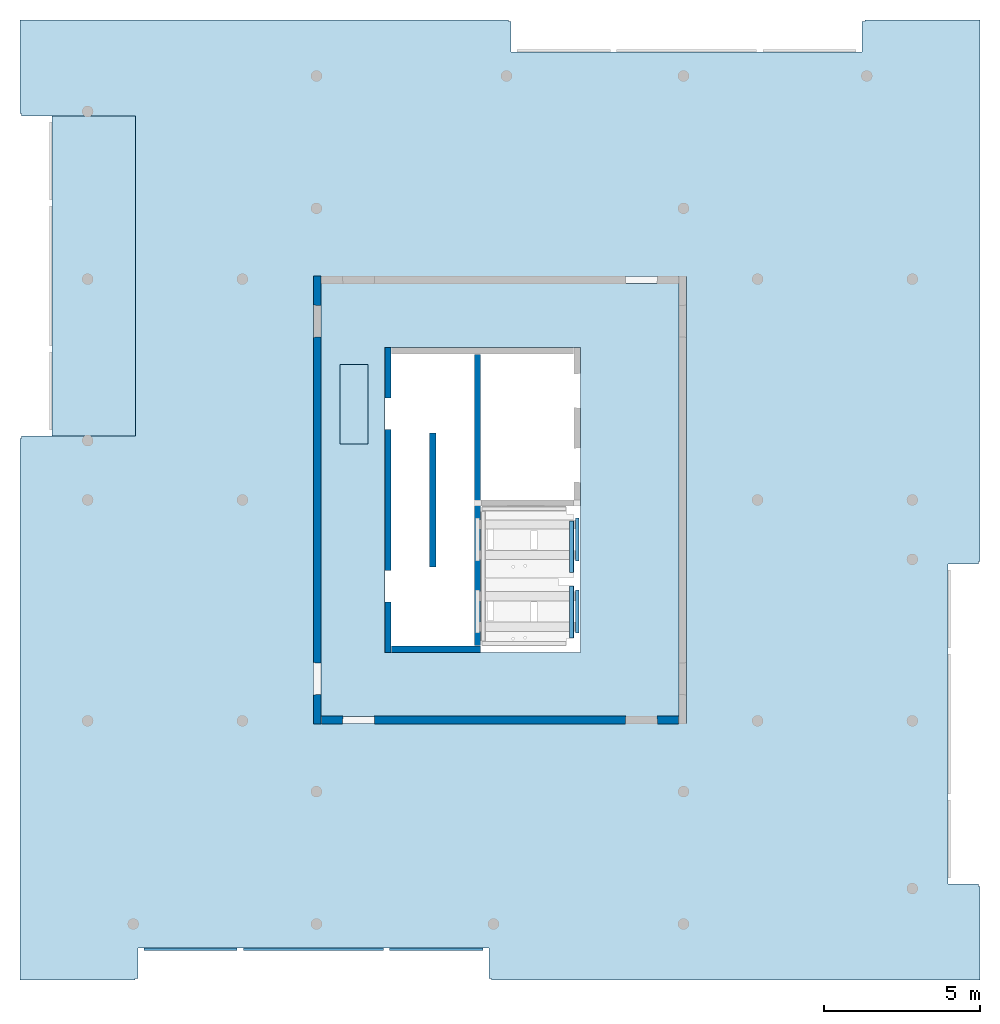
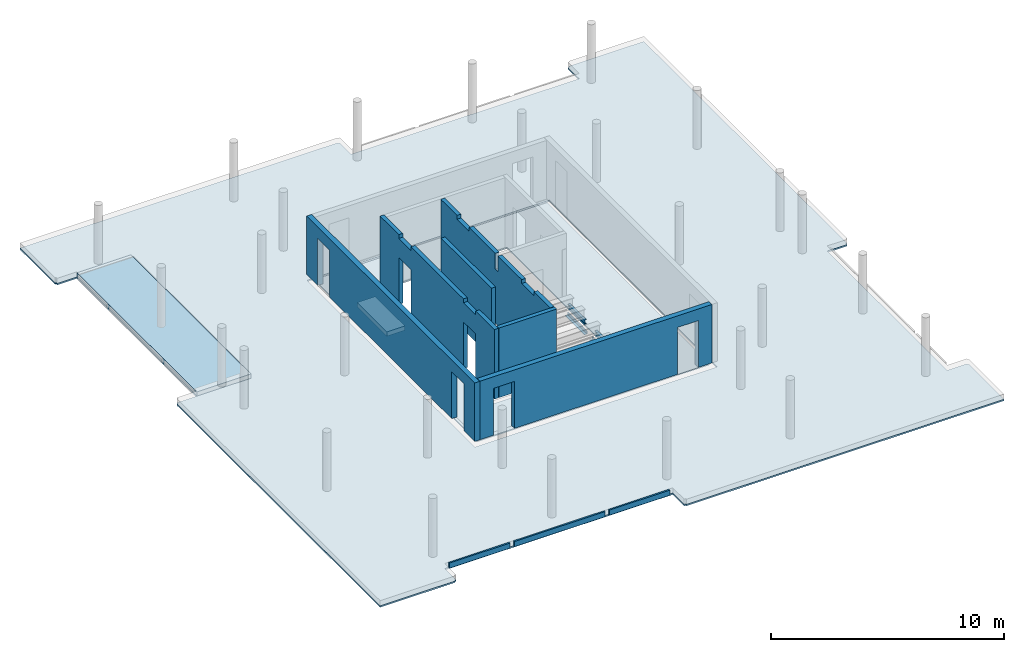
# One storey, part 2 of 4: 9 walls, 4 beams, 4 slabs, 32 openings.
"""IFC2X3 building model written with IfcOpenShell, lengths in millimetres."""

from ifc_helpers import new_model, entity, si_unit, converted_unit, derived_unit, direction, frame, frame_2d, origin, origin_2d_with_axis, place, context, subcontext, project, spatial, polyline, circle_curve, parameter, trimmed, segment, composite_curve, rectangle, circle, i_section, outline, extrude, faceted_brep, material, layer, layer_set, layer_usage, type_object, element, save


model = new_model("IFC2X3")

# Units and contexts
model_context = context("Model", 3, precision=0.01, world=origin(), true_north=direction((6.12303176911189e-17, 1.0)))
body_context = subcontext(model_context, "Body", "Model", "MODEL_VIEW")
ifc_project = project(units=[si_unit("LENGTHUNIT", "METRE", prefix="MILLI"), si_unit("AREAUNIT", "SQUARE_METRE"), si_unit("VOLUMEUNIT", "CUBIC_METRE"), converted_unit("PLANEANGLEUNIT", "DEGREE", entity("IfcRatioMeasure", 0.0174532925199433), si_unit("PLANEANGLEUNIT", "RADIAN"), dimensions=[0, 0, 0, 0, 0, 0, 0]), si_unit("MASSUNIT", "GRAM", prefix="KILO"), derived_unit("MASSDENSITYUNIT", [(si_unit("MASSUNIT", "GRAM", prefix="KILO"), 1), (si_unit("LENGTHUNIT", "METRE"), -3)]), si_unit("TIMEUNIT", "SECOND"), si_unit("FREQUENCYUNIT", "HERTZ"), si_unit("THERMODYNAMICTEMPERATUREUNIT", "DEGREE_CELSIUS"), derived_unit("THERMALTRANSMITTANCEUNIT", [(si_unit("MASSUNIT", "GRAM", prefix="KILO"), 1), (si_unit("THERMODYNAMICTEMPERATUREUNIT", "KELVIN"), -1), (si_unit("TIMEUNIT", "SECOND"), -3)]), derived_unit("VOLUMETRICFLOWRATEUNIT", [(si_unit("LENGTHUNIT", "METRE"), 3), (si_unit("TIMEUNIT", "SECOND"), -1)]), si_unit("ELECTRICCURRENTUNIT", "AMPERE"), si_unit("ELECTRICVOLTAGEUNIT", "VOLT"), si_unit("POWERUNIT", "WATT"), si_unit("FORCEUNIT", "NEWTON", prefix="KILO"), si_unit("ILLUMINANCEUNIT", "LUX"), si_unit("LUMINOUSFLUXUNIT", "LUMEN"), si_unit("LUMINOUSINTENSITYUNIT", "CANDELA"), derived_unit("USERDEFINED", [(si_unit("MASSUNIT", "GRAM", prefix="KILO"), -1), (si_unit("LENGTHUNIT", "METRE"), -2), (si_unit("TIMEUNIT", "SECOND"), 3), (si_unit("LUMINOUSFLUXUNIT", "LUMEN"), 1)]), derived_unit("LINEARVELOCITYUNIT", [(si_unit("LENGTHUNIT", "METRE"), 1), (si_unit("TIMEUNIT", "SECOND"), -1)]), si_unit("PRESSUREUNIT", "PASCAL"), derived_unit("USERDEFINED", [(si_unit("LENGTHUNIT", "METRE"), -2), (si_unit("MASSUNIT", "GRAM", prefix="KILO"), 1), (si_unit("TIMEUNIT", "SECOND"), -2)])], contexts=[model_context])

# Site, building, storey
site_placement = place(None, origin())
site = spatial("IfcSite", under=ifc_project, at=site_placement, Name="Default", CompositionType="ELEMENT")
building_placement = place(site_placement, origin())
building = spatial("IfcBuilding", under=site, at=building_placement, Name="niet gebruiken", CompositionType="ELEMENT")
storey_placement = place(building_placement, frame((0.0, 0.0, 175180.0)))
storey = spatial("IfcBuildingStorey", under=building, at=storey_placement, Name="56 zesenvijftigste verdieping", CompositionType="ELEMENT", Elevation=175180.0)

# Beams
ifc_material_1 = material(Name="NLRS_h2_staal")
beam_type_1 = type_object("IfcBeamType", Name="NLRS_28.11_SF_WPB_stalen ligger IPE_gen:ligger IPE 240", PredefinedType="BEAM")
for number, where, z_axis, x_axis, name in (
    (1, (144230.0, 13223.4999999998, 170.0), (0.0, 0.0, 1.0), (0.0, 1.0, 0.0), "NLRS_28.11_SF_WPB_stalen ligger IPE_gen:ligger IPE 240"),
    (2, (144230.0, 15533.4999999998, 170.0), (0.0, 0.0, 1.0), (0.0, 1.0, 0.0), "NLRS_28.11_SF_WPB_stalen ligger IPE_gen:ligger IPE 240"),
):
    element("IfcBeam", number, at=place(storey_placement, frame(where, z_axis=z_axis, x_axis=x_axis)), inside=storey, type_object=beam_type_1, material=ifc_material_1, Name=name, ObjectType="NLRS_28.11_SF_WPB_stalen ligger IPE_gen:ligger IPE 240", context=body_context, shape_type="SweptSolid", body=[
        extrude(i_section(OverallWidth=120.000000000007, OverallDepth=240.000000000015, WebThickness=6.20000000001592, FlangeThickness=9.8000000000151, FilletRadius=15.0000000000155, at=frame_2d((3.46531692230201e-11, 3.46531692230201e-11), x_axis=(0.0, 1.0))), frame((0.0, 0.0, -120.0), z_axis=(1.0, 0.0, 0.0), x_axis=(0.0, 0.0, -1.0)), (0.0, 0.0, 1.0), 1380.0),
    ])
beam_type_2 = type_object("IfcBeamType", Name="NLRS_28.11_SF_WPB_stalen ligger hoekprofiel gelijkzijdig_gen:ligger gelijzijdig hoekprofiel LEQU_150x150x12", PredefinedType="BEAM")
beam_1_placement = place(storey_placement, frame((144130.0, 13065.0, -320.0), z_axis=(0.0, 0.0, 1.0), x_axis=(0.0, 1.0, 0.0)))
element("IfcBeam", 3, at=beam_1_placement, inside=storey, type_object=beam_type_2, material=ifc_material_1, Name="NLRS_28.11_SF_WPB_stalen ligger hoekprofiel gelijkzijdig_gen:ligger gelijzijdig hoekprofiel LEQU_150x150x12", ObjectType="NLRS_28.11_SF_WPB_stalen ligger hoekprofiel gelijkzijdig_gen:ligger gelijzijdig hoekprofiel LEQU_150x150x12", context=body_context, shape_type="SweptSolid", body=[
    extrude(outline(composite_curve([segment(polyline([(-94.6666666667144, -56.6666666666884), (55.3333333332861, -56.6666666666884)]), True, "CONTINUOUS"), segment(polyline([(55.3333333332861, -56.6666666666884), (55.3333333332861, 93.3333333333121)]), True, "CONTINUOUS"), segment(polyline([(55.3333333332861, 93.3333333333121), (51.333333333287, 93.3333333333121)]), True, "CONTINUOUS"), segment(trimmed(circle_curve(frame_2d((51.333333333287, 85.3333333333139), x_axis=(0.0, 1.0)), 7.99999999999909), [parameter(0.0)], [parameter(90.0000000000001)], True, "PARAMETER"), True, "CONTINUOUS"), segment(polyline([(43.3333333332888, 85.3333333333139), (43.3333333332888, -25.6666666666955)]), True, "CONTINUOUS"), segment(trimmed(circle_curve(frame_2d((27.3333333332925, -25.6666666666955), x_axis=(1.0, 0.0)), 15.9999999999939), [parameter(270.0)], [parameter(0.0)], True, "PARAMETER"), False, "CONTINUOUS"), segment(polyline([(27.3333333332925, -41.6666666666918), (-86.6666666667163, -41.6666666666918)]), True, "CONTINUOUS"), segment(trimmed(circle_curve(frame_2d((-86.6666666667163, -49.66666666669), x_axis=(0.0, 1.0)), 7.9999999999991), [parameter(0.0)], [parameter(90.0000000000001)], True, "PARAMETER"), True, "CONTINUOUS"), segment(polyline([(-94.6666666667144, -49.66666666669), (-94.6666666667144, -56.6666666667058)]), True, "CONTINUOUS")], self_intersect=False)), frame((0.0, 56.6666666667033, 55.3333333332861), z_axis=(1.0, 0.0, 0.0), x_axis=(0.0, 0.0, -1.0)), (0.0, 0.0, 1.0), 1665.0),
])
beam_2_placement = place(storey_placement, frame((144130.0, 15165.0, -320.0), z_axis=(0.0, 0.0, 1.0), x_axis=(0.0, 1.0, 0.0)))
element("IfcBeam", 4, at=beam_2_placement, inside=storey, type_object=beam_type_2, material=ifc_material_1, Name="NLRS_28.11_SF_WPB_stalen ligger hoekprofiel gelijkzijdig_gen:ligger gelijzijdig hoekprofiel LEQU_150x150x12", ObjectType="NLRS_28.11_SF_WPB_stalen ligger hoekprofiel gelijkzijdig_gen:ligger gelijzijdig hoekprofiel LEQU_150x150x12", context=body_context, shape_type="SweptSolid", body=[
    extrude(outline(composite_curve([segment(polyline([(-94.6666666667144, -56.6666666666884), (55.3333333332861, -56.6666666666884)]), True, "CONTINUOUS"), segment(polyline([(55.3333333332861, -56.6666666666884), (55.3333333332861, 93.3333333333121)]), True, "CONTINUOUS"), segment(polyline([(55.3333333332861, 93.3333333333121), (51.333333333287, 93.3333333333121)]), True, "CONTINUOUS"), segment(trimmed(circle_curve(frame_2d((51.333333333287, 85.3333333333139), x_axis=(0.0, 1.0)), 7.99999999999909), [parameter(0.0)], [parameter(90.0000000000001)], True, "PARAMETER"), True, "CONTINUOUS"), segment(polyline([(43.3333333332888, 85.3333333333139), (43.3333333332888, -25.6666666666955)]), True, "CONTINUOUS"), segment(trimmed(circle_curve(frame_2d((27.3333333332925, -25.6666666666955), x_axis=(1.0, 0.0)), 15.9999999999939), [parameter(270.0)], [parameter(0.0)], True, "PARAMETER"), False, "CONTINUOUS"), segment(polyline([(27.3333333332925, -41.6666666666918), (-86.6666666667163, -41.6666666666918)]), True, "CONTINUOUS"), segment(trimmed(circle_curve(frame_2d((-86.6666666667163, -49.66666666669), x_axis=(0.0, 1.0)), 7.9999999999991), [parameter(0.0)], [parameter(90.0000000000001)], True, "PARAMETER"), True, "CONTINUOUS"), segment(polyline([(-94.6666666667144, -49.66666666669), (-94.6666666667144, -56.6666666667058)]), True, "CONTINUOUS")], self_intersect=False)), frame((0.0, 56.6666666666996, 55.3333333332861), z_axis=(1.0, 0.0, 0.0), x_axis=(0.0, 0.0, -1.0)), (0.0, 0.0, 1.0), 1665.0),
])

# Slab
ifc_material_2 = material(Name="NLRS_f2_beton ihwg")
ifc_layer_1 = layer(ifc_material_2, 300.0)
ifc_layer_set_1 = layer_set([ifc_layer_1], Name="Floor:NLRS_23.21_FL_vloer d=300_gen")
ifc_layer_usage_1 = layer_usage(ifc_layer_set_1, "AXIS3", "POSITIVE", 0.0)
slab_1_placement = place(storey_placement, origin())
element("IfcSlab", 5, at=slab_1_placement, inside=storey, material=ifc_layer_usage_1, Name="Floor:NLRS_23.21_FL_vloer d=300_gen", ObjectType="Floor:NLRS_23.21_FL_vloer d=300_gen", PredefinedType="FLOOR", context=body_context, shape_type="SweptSolid", body=[
    extrude(rectangle(XDim=10280.0000000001, YDim=2685.00000000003, at=origin_2d_with_axis()), frame((128687.5, 24700.0, -140.0), z_axis=(0.0, 0.0, -1.0), x_axis=(0.0, 1.0, 0.0)), (0.0, 0.0, 1.0), 219.999999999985),
])

# Slab, opening
ifc_material_3 = material(Name="NLRS_f2_beton prefab")
ifc_layer_2 = layer(ifc_material_3, 80.0)
ifc_layer_set_2 = layer_set([ifc_layer_2], Name="Floor:NLRS_23.21_FL_breedplaat d=80_gen")
ifc_layer_usage_2 = layer_usage(ifc_layer_set_2, "AXIS3", "POSITIVE", 0.0)
slab_2_placement = place(storey_placement, frame((126320.0, 2070.0, -440.0)))
slab_2 = element("IfcSlab", 6, at=slab_2_placement, inside=storey, material=ifc_layer_usage_2, Name="Floor:NLRS_23.21_FL_breedplaat d=80_gen", ObjectType="Floor:NLRS_23.21_FL_breedplaat d=80_gen", PredefinedType="FLOOR", context=body_context, shape_type="SweptSolid", body=[
    extrude(outline(polyline([(14405.0, 2060.0), (14405.0, 12340.0), (15380.0, 12340.0), (15380.0, 12426.0), (15430.0, 12426.0), (15430.0, 15430.0), (-274.0, 15430.0), (-274.0, 15380.0), (-360.0, 15380.0), (-360.0, 14405.0), (-11640.0, 14405.0), (-11640.0, 15380.0), (-11726.0, 15380.0), (-11726.0, 15430.0), (-15430.0, 15430.0), (-15430.0, -1974.0), (-15380.0, -1974.0), (-15380.0, -2060.0), (-14405.0, -2060.0), (-14405.0, -12340.0), (-15380.0, -12340.0), (-15380.0, -12426.0), (-15430.0, -12426.0), (-15430.0, -15430.0), (274.0, -15430.0), (274.0, -15380.0), (360.0, -15380.0), (360.0, -14405.0), (11640.0, -14405.0), (11640.0, -15380.0), (11726.0, -15380.0), (11726.0, -15430.0), (15430.0, -15430.0), (15430.0, 1974.0), (15380.0, 1974.0), (15380.0, 2060.0), (14405.0, 2060.0)])), frame((15430.0, 15430.0, 80.0), z_axis=(0.0, 0.0, -1.0), x_axis=(-1.0, 0.0, 0.0)), (0.0, 0.0, 1.0), 80.0000000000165),
])
opening_1_placement = place(slab_2_placement, frame((15430.0, 15430.0, 80.0)))
element("IfcOpeningElement", 7, at=opening_1_placement, cuts=slab_2, Name="Floor:NLRS_23.21_FL_breedplaat d=80_gen:2", ObjectType="Opening", context=body_context, shape_type="SweptSolid", body=[
    extrude(rectangle(XDim=14379.9999999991, YDim=11980.0000000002, at=origin_2d_with_axis()), frame((0.0, 0.0, 0.0), z_axis=(0.0, 0.0, 1.0), x_axis=(0.0, -1.0, 0.0)), (0.0, 0.0, -1.0), 80.0000000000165),
])

# Slab, openings
ifc_layer_3 = layer(ifc_material_3, 60.0)
ifc_layer_set_3 = layer_set([ifc_layer_3], Name="Floor:NLRS_23.21_FL_breedplaat d=60_gen")
ifc_layer_usage_3 = layer_usage(ifc_layer_set_3, "AXIS3", "POSITIVE", 0.0)
slab_3_placement = place(storey_placement, frame((135990.0, 10540.0, -320.0)))
slab_3 = element("IfcSlab", 8, at=slab_3_placement, inside=storey, material=ifc_layer_usage_3, Name="Floor:NLRS_23.21_FL_breedplaat d=60_gen", ObjectType="Floor:NLRS_23.21_FL_breedplaat d=60_gen", PredefinedType="FLOOR", context=body_context, shape_type="SweptSolid", body=[
    extrude(rectangle(XDim=13919.9999999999, YDim=11520.0, at=frame_2d((0.0, 0.0), x_axis=(0.0, -1.0))), frame((5760.0, 6960.0, 60.0), z_axis=(0.0, 0.0, -1.0), x_axis=(-1.0, 0.0, 0.0)), (0.0, 0.0, 1.0), 59.9999999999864),
])
opening_2_placement = place(slab_3_placement, origin())
element("IfcOpeningElement", 9, at=opening_2_placement, cuts=slab_3, ObjectType="Opening", context=body_context, shape_type="SweptSolid", body=[
    extrude(rectangle(XDim=249.999999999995, YDim=250.000000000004, at=origin_2d_with_axis()), frame((8015.0, 6635.0, 0.0), z_axis=(0.0, 0.0, 1.0), x_axis=(-1.0, 0.0, 0.0)), (0.0, 0.0, 1.0), 230.000000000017),
])
opening_3_placement = place(slab_3_placement, origin())
element("IfcOpeningElement", 10, at=opening_3_placement, cuts=slab_3, ObjectType="Opening", context=body_context, shape_type="SweptSolid", body=[
    extrude(rectangle(XDim=250.000000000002, YDim=500.000000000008, at=origin_2d_with_axis()), frame((7890.0, 4330.0, 0.0), z_axis=(0.0, 0.0, 1.0), x_axis=(0.0, -1.0, 0.0)), (0.0, 0.0, 1.0), 230.000000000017),
])
opening_4_placement = place(slab_3_placement, origin())
element("IfcOpeningElement", 11, at=opening_4_placement, cuts=slab_3, ObjectType="Opening", context=body_context, shape_type="SweptSolid", body=[
    extrude(rectangle(XDim=200.000000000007, YDim=620.000000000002, at=origin_2d_with_axis()), frame((6857.0, 5675.0, 0.0), z_axis=(0.0, 0.0, 1.0), x_axis=(-1.0, 0.0, 0.0)), (0.0, 0.0, 1.0), 230.000000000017),
])
opening_5_placement = place(slab_3_placement, origin())
element("IfcOpeningElement", 12, at=opening_5_placement, cuts=slab_3, ObjectType="Opening", context=body_context, shape_type="SweptSolid", body=[
    extrude(circle(Radius=40.0, at=origin_2d_with_axis()), frame((6567.0, 4845.0, 0.0), z_axis=(0.0, 0.0, 1.0), x_axis=(0.0, 1.0, 0.0)), (0.0, 0.0, 1.0), 230.000000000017),
])
opening_6_placement = place(slab_3_placement, origin())
element("IfcOpeningElement", 13, at=opening_6_placement, cuts=slab_3, ObjectType="Opening", context=body_context, shape_type="SweptSolid", body=[
    extrude(circle(Radius=40.0, at=origin_2d_with_axis()), frame((6183.17061081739, 4815.0, 0.0), z_axis=(0.0, 0.0, 1.0), x_axis=(0.0, 1.0, 0.0)), (0.0, 0.0, 1.0), 230.000000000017),
])
opening_7_placement = place(slab_3_placement, origin())
element("IfcOpeningElement", 14, at=opening_7_placement, cuts=slab_3, ObjectType="Opening", context=body_context, shape_type="SweptSolid", body=[
    extrude(rectangle(XDim=200.000000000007, YDim=620.000000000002, at=origin_2d_with_axis()), frame((6857.0, 3365.0, 0.0), z_axis=(0.0, 0.0, 1.0), x_axis=(-1.0, 0.0, 0.0)), (0.0, 0.0, 1.0), 230.000000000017),
])
opening_8_placement = place(slab_3_placement, origin())
element("IfcOpeningElement", 15, at=opening_8_placement, cuts=slab_3, ObjectType="Opening", context=body_context, shape_type="SweptSolid", body=[
    extrude(rectangle(XDim=200.000000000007, YDim=620.000000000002, at=origin_2d_with_axis()), frame((5459.0, 3390.0, 0.0), z_axis=(0.0, 0.0, 1.0), x_axis=(-1.0, 0.0, 0.0)), (0.0, 0.0, 1.0), 230.000000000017),
])
opening_9_placement = place(slab_3_placement, origin())
element("IfcOpeningElement", 16, at=opening_9_placement, cuts=slab_3, ObjectType="Opening", context=body_context, shape_type="SweptSolid", body=[
    extrude(circle(Radius=40.0, at=origin_2d_with_axis()), frame((6567.0, 2535.0, 0.0), z_axis=(0.0, 0.0, 1.0), x_axis=(0.0, 1.0, 0.0)), (0.0, 0.0, 1.0), 230.000000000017),
])
opening_10_placement = place(slab_3_placement, origin())
element("IfcOpeningElement", 17, at=opening_10_placement, cuts=slab_3, ObjectType="Opening", context=body_context, shape_type="SweptSolid", body=[
    extrude(circle(Radius=40.0, at=origin_2d_with_axis()), frame((6183.17061081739, 2505.0, 0.0), z_axis=(0.0, 0.0, 1.0), x_axis=(0.0, 1.0, 0.0)), (0.0, 0.0, 1.0), 230.000000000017),
])
opening_11_placement = place(slab_3_placement, origin())
element("IfcOpeningElement", 18, at=opening_11_placement, cuts=slab_3, ObjectType="Opening", context=body_context, shape_type="SweptSolid", body=[
    extrude(rectangle(XDim=249.999999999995, YDim=250.000000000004, at=origin_2d_with_axis()), frame((8015.0, 2385.0, 0.0), z_axis=(0.0, 0.0, 1.0), x_axis=(-1.0, 0.0, 0.0)), (0.0, 0.0, 1.0), 230.000000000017),
])
opening_12_placement = place(slab_3_placement, origin())
element("IfcOpeningElement", 19, at=opening_12_placement, cuts=slab_3, ObjectType="Opening", context=body_context, shape_type="SweptSolid", body=[
    extrude(rectangle(XDim=200.000000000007, YDim=620.000000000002, at=origin_2d_with_axis()), frame((5459.0, 5700.0, 0.0), z_axis=(0.0, 0.0, 1.0), x_axis=(-1.0, 0.0, 0.0)), (0.0, 0.0, 1.0), 230.000000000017),
])
opening_13_placement = place(slab_3_placement, frame((5200.0, 6960.0, 60.0)))
element("IfcOpeningElement", 20, at=opening_13_placement, cuts=slab_3, Name="Floor:NLRS_23.21_FL_breedplaat d=60_gen:2", ObjectType="Opening", context=body_context, shape_type="SweptSolid", body=[
    extrude(rectangle(XDim=9820.0, YDim=6299.99999999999, at=origin_2d_with_axis()), frame((0.0, 0.0, 0.0), z_axis=(0.0, 0.0, -1.0), x_axis=(0.0, -1.0, 0.0)), (0.0, 0.0, 1.0), 59.9999999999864),
])
opening_14_placement = place(slab_3_placement, frame((1060.0, 10040.0, 60.0)))
element("IfcOpeningElement", 21, at=opening_14_placement, cuts=slab_3, Name="Floor:NLRS_23.21_FL_breedplaat d=60_gen:3", ObjectType="Opening", context=body_context, shape_type="SweptSolid", body=[
    extrude(rectangle(XDim=900.000000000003, YDim=2550.0, at=origin_2d_with_axis()), frame((0.0, 0.0, 0.0), z_axis=(0.0, 0.0, -1.0), x_axis=(-1.0, 0.0, 0.0)), (0.0, 0.0, 1.0), 59.9999999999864),
])

# Slab
ifc_layer_4 = layer(ifc_material_2, 230.0)
ifc_layer_set_4 = layer_set([ifc_layer_4], Name="Floor:NLRS_23.21_FL_vloer=230 later gestort_gen")
ifc_layer_usage_4 = layer_usage(ifc_layer_set_4, "AXIS3", "POSITIVE", 0.0)
slab_4_placement = place(storey_placement, origin())
element("IfcSlab", 22, at=slab_4_placement, inside=storey, material=ifc_layer_usage_4, Name="Floor:NLRS_23.21_FL_vloer=230 later gestort_gen", ObjectType="Floor:NLRS_23.21_FL_vloer=230 later gestort_gen", PredefinedType="FLOOR", context=body_context, shape_type="SweptSolid", body=[
    extrude(rectangle(XDim=2550.0, YDim=900.000000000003, at=frame_2d((1.13686837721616e-12, 0.0), x_axis=(1.0, 0.0))), frame((137050.0, 20580.0, -90.0), z_axis=(0.0, 0.0, -1.0), x_axis=(0.0, 1.0, 0.0)), (0.0, 0.0, 1.0), 230.000000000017),
])

# Wall, openings
ifc_layer_5 = layer(ifc_material_3, 200.0)
ifc_layer_set_5 = layer_set([ifc_layer_5], Name="Basic Wall:NLRS_22.21_WA_beton prefab d=200_gen")
ifc_layer_usage_5 = layer_usage(ifc_layer_set_5, "AXIS2", "NEGATIVE", 100.0)
wall_type_1 = type_object("IfcWallType", Name="Basic Wall:NLRS_22.21_WA_beton prefab d=200_gen", PredefinedType="STANDARD", material=ifc_layer_set_5)
wall_1_placement = place(storey_placement, frame((138150.0, 22400.0, -50.0), z_axis=(0.0, 0.0, 1.0), x_axis=(0.0, -1.0, 0.0)))
wall_1 = element("IfcWallStandardCase", 23, at=wall_1_placement, inside=storey, type_object=wall_type_1, material=ifc_layer_usage_5, Name="Basic Wall:NLRS_22.21_WA_beton prefab d=200_gen", ObjectType="Basic Wall:NLRS_22.21_WA_beton prefab d=200_gen", context=body_context, shape_type="SweptSolid", body=[
    extrude(rectangle(XDim=9800.0, YDim=199.999999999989, at=frame_2d((4900.0, 3.76587649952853e-13), x_axis=(-1.0, 0.0))), origin(), (0.0, 0.0, 1.0), 3640.0),
])
opening_15_placement = place(wall_1_placement, origin())
element("IfcOpeningElement", 24, at=opening_15_placement, cuts=wall_1, Name="Basic Wall:NLRS_22.21_WA_beton prefab d=200_gen", ObjectType="Opening", context=body_context, shape_type="SweptSolid", body=[
    extrude(rectangle(XDim=200.000000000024, YDim=1044.0, at=origin_2d_with_axis()), frame((7672.0, -100.0, 3540.0), z_axis=(0.0, 1.0, 0.0), x_axis=(0.0, 0.0, -1.0)), (0.0, 0.0, 1.0), 199.999999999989),
])
opening_16_placement = place(wall_1_placement, origin())
element("IfcOpeningElement", 25, at=opening_16_placement, cuts=wall_1, Name="Basic Wall:NLRS_22.21_WA_beton prefab d=200_gen", ObjectType="Opening", context=body_context, shape_type="SweptSolid", body=[
    extrude(rectangle(XDim=200.000000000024, YDim=1044.0, at=frame_2d((0.0, 2.1600499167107e-12), x_axis=(1.0, 0.0))), frame((2128.0, -100.0, 3540.0), z_axis=(0.0, 1.0, 0.0), x_axis=(0.0, 0.0, -1.0)), (0.0, 0.0, 1.0), 199.999999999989),
])
opening_17_placement = place(wall_1_placement, origin())
element("IfcOpeningElement", 26, at=opening_17_placement, cuts=wall_1, Name="Basic Wall:NLRS_22.21_WA_beton prefab d=200_gen", ObjectType="Opening", context=body_context, shape_type="SweptSolid", body=[
    extrude(rectangle(XDim=2434.99999999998, YDim=1015.99999999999, at=frame_2d((0.0, -1.10844666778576e-12), x_axis=(1.0, 0.0))), frame((7672.0, -100.0, 1217.49999999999), z_axis=(0.0, 1.0, 0.0), x_axis=(0.0, 0.0, -1.0)), (0.0, 0.0, 1.0), 199.999999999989),
])
opening_18_placement = place(wall_1_placement, origin())
element("IfcOpeningElement", 27, at=opening_18_placement, cuts=wall_1, Name="Basic Wall:NLRS_22.21_WA_beton prefab d=200_gen", ObjectType="Opening", context=body_context, shape_type="SweptSolid", body=[
    extrude(rectangle(XDim=2434.99999999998, YDim=1015.99999999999, at=origin_2d_with_axis()), frame((2128.0, -100.0, 1217.49999999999), z_axis=(0.0, 1.0, 0.0), x_axis=(0.0, 0.0, -1.0)), (0.0, 0.0, 1.0), 199.999999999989),
])

ifc_layer_usage_6 = layer_usage(ifc_layer_set_5, "AXIS2", "NEGATIVE", 100.0)
wall_2_placement = place(storey_placement, frame((141030.0, 22180.0, -50.0), z_axis=(0.0, 0.0, 1.0), x_axis=(0.0, -1.0, 0.0)))
wall_2 = element("IfcWallStandardCase", 28, at=wall_2_placement, inside=storey, type_object=wall_type_1, material=ifc_layer_usage_6, Name="Basic Wall:NLRS_22.21_WA_beton prefab d=200_gen", ObjectType="Basic Wall:NLRS_22.21_WA_beton prefab d=200_gen", context=body_context, shape_type="SweptSolid", body=[
    extrude(rectangle(XDim=9360.0, YDim=199.999999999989, at=frame_2d((4680.0, -2.8421709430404e-14), x_axis=(-1.0, 0.0))), origin(), (0.0, 0.0, 1.0), 3640.0),
])
opening_19_placement = place(wall_2_placement, origin())
element("IfcOpeningElement", 29, at=opening_19_placement, cuts=wall_2, Name="Basic Wall:NLRS_22.21_WA_beton prefab d=200_gen", ObjectType="Opening", context=body_context, shape_type="SweptSolid", body=[
    extrude(rectangle(XDim=819.999999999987, YDim=240.0, at=frame_2d((1.73372427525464e-11, 1.08713038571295e-12), x_axis=(1.0, 0.0))), frame((4780.0, -100.0, 3230.0), z_axis=(0.0, 1.0, 0.0), x_axis=(0.0, 0.0, -1.0)), (0.0, 0.0, 1.0), 199.999999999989),
])
opening_20_placement = place(wall_2_placement, origin())
element("IfcOpeningElement", 30, at=opening_20_placement, cuts=wall_2, Name="Basic Wall:NLRS_22.21_WA_beton prefab d=200_gen", ObjectType="Opening", context=body_context, shape_type="SweptSolid", body=[
    extrude(rectangle(XDim=69.9999999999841, YDim=1044.0, at=frame_2d((-1.732658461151e-11, 2.1600499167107e-12), x_axis=(1.0, 0.0))), frame((1908.0, -100.0, 35.0), z_axis=(0.0, 1.0, 0.0), x_axis=(0.0, 0.0, -1.0)), (0.0, 0.0, 1.0), 199.999999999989),
])
opening_21_placement = place(wall_2_placement, origin())
element("IfcOpeningElement", 31, at=opening_21_placement, cuts=wall_2, Name="Basic Wall:NLRS_22.21_WA_beton prefab d=200_gen", ObjectType="Opening", context=body_context, shape_type="SweptSolid", body=[
    extrude(rectangle(XDim=200.000000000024, YDim=1044.0, at=frame_2d((0.0, 2.1600499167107e-12), x_axis=(1.0, 0.0))), frame((1908.0, -100.0, 3540.0), z_axis=(0.0, 1.0, 0.0), x_axis=(0.0, 0.0, -1.0)), (0.0, 0.0, 1.0), 199.999999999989),
])
opening_22_placement = place(wall_2_placement, origin())
element("IfcOpeningElement", 32, at=opening_22_placement, cuts=wall_2, Name="Basic Wall:NLRS_22.21_WA_beton prefab d=200_gen", ObjectType="Opening", context=body_context, shape_type="SweptSolid", body=[
    extrude(rectangle(XDim=200.000000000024, YDim=1044.0, at=frame_2d((0.0, 2.1600499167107e-12), x_axis=(1.0, 0.0))), frame((7452.0, -100.0, 3540.0), z_axis=(0.0, 1.0, 0.0), x_axis=(0.0, 0.0, -1.0)), (0.0, 0.0, 1.0), 199.999999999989),
])
opening_23_placement = place(wall_2_placement, origin())
element("IfcOpeningElement", 33, at=opening_23_placement, cuts=wall_2, Name="Basic Wall:NLRS_22.21_WA_beton prefab d=200_gen", ObjectType="Recess", context=body_context, shape_type="SweptSolid", body=[
    extrude(rectangle(XDim=859.999999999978, YDim=1480.0, at=frame_2d((-1.08002495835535e-12, -1.73372427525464e-11), x_axis=(0.0, 1.0))), frame((8266.49999999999, -60.0, 430.0), z_axis=(0.0, 1.0, 0.0), x_axis=(1.0, 0.0, 0.0)), (0.0, 0.0, 1.0), 159.999999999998),
])
opening_24_placement = place(wall_2_placement, origin())
element("IfcOpeningElement", 34, at=opening_24_placement, cuts=wall_2, Name="Basic Wall:NLRS_22.21_WA_beton prefab d=200_gen", ObjectType="Recess", context=body_context, shape_type="SweptSolid", body=[
    extrude(rectangle(XDim=859.999999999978, YDim=1480.0, at=frame_2d((1.08002495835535e-12, -1.73372427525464e-11), x_axis=(0.0, 1.0))), frame((5956.49999999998, -60.0, 430.0), z_axis=(0.0, 1.0, 0.0), x_axis=(1.0, 0.0, 0.0)), (0.0, 0.0, 1.0), 159.999999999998),
])
opening_25_placement = place(wall_2_placement, origin())
element("IfcOpeningElement", 35, at=opening_25_placement, cuts=wall_2, Name="Basic Wall:NLRS_22.21_WA_beton prefab d=200_gen", ObjectType="Recess", context=body_context, shape_type="SweptSolid", body=[
    extrude(rectangle(XDim=399.999999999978, YDim=280.000000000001, at=frame_2d((-2.1600499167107e-12, 0.0), x_axis=(0.0, 1.0))), frame((770.0, -60.0, 438.0), z_axis=(0.0, 1.0, 0.0), x_axis=(1.0, 0.0, 0.0)), (0.0, 0.0, 1.0), 159.999999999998),
])
opening_26_placement = place(wall_2_placement, origin())
element("IfcOpeningElement", 36, at=opening_26_placement, cuts=wall_2, Name="Basic Wall:NLRS_22.21_WA_beton prefab d=200_gen", ObjectType="Recess", context=body_context, shape_type="SweptSolid", body=[
    extrude(rectangle(XDim=399.999999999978, YDim=280.000000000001, at=frame_2d((-2.1600499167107e-12, 0.0), x_axis=(0.0, 1.0))), frame((1570.0, -60.0, 438.0), z_axis=(0.0, 1.0, 0.0), x_axis=(1.0, 0.0, 0.0)), (0.0, 0.0, 1.0), 159.999999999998),
])
opening_27_placement = place(wall_2_placement, origin())
element("IfcOpeningElement", 37, at=opening_27_placement, cuts=wall_2, Name="Basic Wall:NLRS_22.21_WA_beton prefab d=200_gen", ObjectType="Recess", context=body_context, shape_type="SweptSolid", body=[
    extrude(rectangle(XDim=399.999999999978, YDim=279.999999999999, at=frame_2d((1.08002495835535e-12, 0.0), x_axis=(0.0, 1.0))), frame((3160.0, -60.0, 438.0), z_axis=(0.0, 1.0, 0.0), x_axis=(1.0, 0.0, 0.0)), (0.0, 0.0, 1.0), 159.999999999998),
])
opening_28_placement = place(wall_2_placement, origin())
element("IfcOpeningElement", 38, at=opening_28_placement, cuts=wall_2, Name="Basic Wall:NLRS_22.21_WA_beton prefab d=200_gen", ObjectType="Recess", context=body_context, shape_type="SweptSolid", body=[
    extrude(rectangle(XDim=399.999999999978, YDim=279.999999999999, at=frame_2d((1.08002495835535e-12, 0.0), x_axis=(0.0, 1.0))), frame((3960.0, -60.0, 438.0), z_axis=(0.0, 1.0, 0.0), x_axis=(1.0, 0.0, 0.0)), (0.0, 0.0, 1.0), 159.999999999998),
])

# Walls
ifc_layer_usage_7 = layer_usage(ifc_layer_set_5, "AXIS2", "NEGATIVE", 100.0)
wall_3_placement = place(storey_placement, frame((139590.0, 19660.0, -50.0), z_axis=(0.0, 0.0, 1.0), x_axis=(0.0, -1.0, 0.0)))
element("IfcWallStandardCase", 39, at=wall_3_placement, inside=storey, type_object=wall_type_1, material=ifc_layer_usage_7, Name="Basic Wall:NLRS_22.21_WA_beton prefab d=200_gen", ObjectType="Basic Wall:NLRS_22.21_WA_beton prefab d=200_gen", context=body_context, shape_type="SweptSolid", body=[
    extrude(rectangle(XDim=4319.99999999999, YDim=199.999999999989, at=frame_2d((2160.0, 0.0), x_axis=(-1.0, 0.0))), origin(), (0.0, 0.0, 1.0), 3640.0),
])
ifc_layer_usage_8 = layer_usage(ifc_layer_set_5, "AXIS2", "NEGATIVE", 100.0)
wall_4_placement = place(storey_placement, frame((138270.0, 12700.0, -50.0)))
element("IfcWallStandardCase", 40, at=wall_4_placement, inside=storey, type_object=wall_type_1, material=ifc_layer_usage_8, Name="Basic Wall:NLRS_22.21_WA_beton prefab d=200_gen", ObjectType="Basic Wall:NLRS_22.21_WA_beton prefab d=200_gen", context=body_context, shape_type="SweptSolid", body=[
    extrude(rectangle(XDim=2859.99999999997, YDim=199.999999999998, at=frame_2d((1429.99999999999, 1.13686837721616e-13), x_axis=(-1.0, 0.0))), origin(), (0.0, 0.0, 1.0), 3640.0),
])

# Wall, openings
ifc_layer_6 = layer(ifc_material_3, 250.0)
ifc_layer_set_6 = layer_set([ifc_layer_6], Name="Basic Wall:NLRS_22.21_WA_beton prefab d=250_gen")
ifc_layer_usage_9 = layer_usage(ifc_layer_set_6, "AXIS2", "NEGATIVE", 125.0)
wall_type_2 = type_object("IfcWallType", Name="Basic Wall:NLRS_22.21_WA_beton prefab d=250_gen", PredefinedType="STANDARD", material=ifc_layer_set_6)
wall_5_placement = place(storey_placement, frame((135875.0, 24700.0, -60.0), z_axis=(0.0, 0.0, 1.0), x_axis=(0.0, -1.0, 0.0)))
wall_5 = element("IfcWallStandardCase", 41, at=wall_5_placement, inside=storey, type_object=wall_type_2, material=ifc_layer_usage_9, Name="Basic Wall:NLRS_22.21_WA_beton prefab d=250_gen", ObjectType="Basic Wall:NLRS_22.21_WA_beton prefab d=250_gen", context=body_context, shape_type="SweptSolid", body=[
    extrude(rectangle(XDim=14400.0, YDim=250.000000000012, at=frame_2d((7200.0, 0.0), x_axis=(-1.0, 0.0))), origin(), (0.0, 0.0, 1.0), 3060.0),
])
opening_29_placement = place(wall_5_placement, frame((13465.0, -125.0, -10.0)))
element("IfcOpeningElement", 42, at=opening_29_placement, cuts=wall_5, Name="Basic Wall:NLRS_22.21_WA_beton prefab d=250_gen", ObjectType="Opening", context=body_context, shape_type="Brep", body=[
    faceted_brep([(-1036.0, 0.0, 2463.0), (-1021.0, 250.0, 2448.0), (-1021.0, 250.0, 0.0), (-1036.0, 0.0, 0.0), (-15.0, 250.0, 0.0), (0.0, 0.0, 0.0), (-15.0, 250.0, 2448.0), (0.0, 0.0, 2463.0)], [[[0, 1, 2, 3]], [[3, 2, 4, 5]], [[6, 4, 2, 1]], [[7, 0, 3, 5]], [[7, 6, 1, 0]], [[5, 4, 6, 7]]]),
])
opening_30_placement = place(wall_5_placement, frame((1971.0, -125.0, -10.0)))
element("IfcOpeningElement", 43, at=opening_30_placement, cuts=wall_5, Name="Basic Wall:NLRS_22.21_WA_beton prefab d=250_gen", ObjectType="Opening", context=body_context, shape_type="Brep", body=[
    faceted_brep([(-1036.0, 0.0, 2463.0), (-1021.0, 250.0, 2448.0), (-1021.0, 250.0, 0.0), (-1036.0, 0.0, 0.0), (-15.0, 250.0, 0.0), (0.0, 0.0, 0.0), (-15.0, 250.0, 2448.0), (0.0, 0.0, 2463.0)], [[[0, 1, 2, 3]], [[3, 2, 4, 5]], [[6, 4, 2, 1]], [[7, 0, 3, 5]], [[7, 6, 1, 0]], [[5, 4, 6, 7]]]),
])

ifc_layer_usage_10 = layer_usage(ifc_layer_set_6, "AXIS2", "NEGATIVE", 125.0)
wall_6_placement = place(storey_placement, frame((136020.0, 10425.0, -60.0)))
wall_6 = element("IfcWallStandardCase", 44, at=wall_6_placement, inside=storey, type_object=wall_type_2, material=ifc_layer_usage_10, Name="Basic Wall:NLRS_22.21_WA_beton prefab d=250_gen", ObjectType="Basic Wall:NLRS_22.21_WA_beton prefab d=250_gen", context=body_context, shape_type="SweptSolid", body=[
    extrude(rectangle(XDim=11459.9964599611, YDim=249.999999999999, at=frame_2d((5729.99822998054, 0.0), x_axis=(-1.0, 0.0))), origin(), (0.0, 0.0, 1.0), 3060.0),
])
opening_31_placement = place(wall_6_placement, frame((9759.0, -125.0, -10.0)))
element("IfcOpeningElement", 45, at=opening_31_placement, cuts=wall_6, Name="Basic Wall:NLRS_22.21_WA_beton prefab d=250_gen", ObjectType="Opening", context=body_context, shape_type="Brep", body=[
    faceted_brep([(0.0, 0.0, 2463.0), (15.0, 250.0, 2448.0), (15.0, 250.0, 0.0), (0.0, 0.0, 0.0), (1021.0, 250.0, 0.0), (1036.0, 0.0, 0.0), (1021.0, 250.0, 2448.0), (1036.0, 0.0, 2463.0)], [[[0, 1, 2, 3]], [[3, 2, 4, 5]], [[6, 4, 2, 1]], [[7, 0, 3, 5]], [[7, 6, 1, 0]], [[5, 4, 6, 7]]]),
])
opening_32_placement = place(wall_6_placement, frame((665.0, -125.0, -10.0)))
element("IfcOpeningElement", 46, at=opening_32_placement, cuts=wall_6, Name="Basic Wall:NLRS_22.21_WA_beton prefab d=250_gen", ObjectType="Opening", context=body_context, shape_type="Brep", body=[
    faceted_brep([(0.0, 0.0, 2463.0), (15.0, 250.0, 2448.0), (15.0, 250.0, 0.0), (0.0, 0.0, 0.0), (1021.0, 250.0, 0.0), (1036.0, 0.0, 0.0), (1021.0, 250.0, 2448.0), (1036.0, 0.0, 2463.0)], [[[0, 1, 2, 3]], [[3, 2, 4, 5]], [[6, 4, 2, 1]], [[7, 0, 3, 5]], [[7, 6, 1, 0]], [[5, 4, 6, 7]]]),
])

# Walls
ifc_material_4 = material(Name="NLRS_a_isolatie")
ifc_layer_7 = layer(ifc_material_4, 80.0)
ifc_layer_set_7 = layer_set([ifc_layer_7], Name="Basic Wall:NLRS_21.10_WA_isokorf d=80_gen")
ifc_layer_usage_11 = layer_usage(ifc_layer_set_7, "AXIS2", "NEGATIVE", 40.0)
wall_type_3 = type_object("IfcWallType", Name="Basic Wall:NLRS_21.10_WA_isokorf d=80_gen", PredefinedType="STANDARD", material=ifc_layer_set_7)
wall_7_placement = place(storey_placement, frame((138000.0, 3055.0, -360.0), z_axis=(0.0, 0.0, 1.0), x_axis=(-1.0, 0.0, 0.0)))
element("IfcWallStandardCase", 47, at=wall_7_placement, inside=storey, type_object=wall_type_3, material=ifc_layer_usage_11, Name="Basic Wall:NLRS_21.10_WA_isokorf d=80_gen", ObjectType="Basic Wall:NLRS_21.10_WA_isokorf d=80_gen", context=body_context, shape_type="SweptSolid", body=[
    extrude(rectangle(XDim=4500.0, YDim=80.0000000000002, at=frame_2d((2250.0, 7.8159700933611e-14), x_axis=(-1.0, 0.0))), origin(), (0.0, 0.0, 1.0), 269.999999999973),
])
ifc_layer_usage_12 = layer_usage(ifc_layer_set_7, "AXIS2", "NEGATIVE", 40.0)
wall_8_placement = place(storey_placement, frame((133300.0, 3055.0, -360.0), z_axis=(0.0, 0.0, 1.0), x_axis=(-1.0, 0.0, 0.0)))
element("IfcWallStandardCase", 48, at=wall_8_placement, inside=storey, type_object=wall_type_3, material=ifc_layer_usage_12, Name="Basic Wall:NLRS_21.10_WA_isokorf d=80_gen", ObjectType="Basic Wall:NLRS_21.10_WA_isokorf d=80_gen", context=body_context, shape_type="SweptSolid", body=[
    extrude(rectangle(XDim=2999.99999999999, YDim=80.0000000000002, at=frame_2d((1500.0, -3.90798504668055e-14), x_axis=(-1.0, 0.0))), origin(), (0.0, 0.0, 1.0), 269.999999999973),
])
ifc_layer_usage_13 = layer_usage(ifc_layer_set_7, "AXIS2", "NEGATIVE", 40.0)
wall_9_placement = place(storey_placement, frame((141200.0, 3055.0, -360.0), z_axis=(0.0, 0.0, 1.0), x_axis=(-1.0, 0.0, 0.0)))
element("IfcWallStandardCase", 49, at=wall_9_placement, inside=storey, type_object=wall_type_3, material=ifc_layer_usage_13, Name="Basic Wall:NLRS_21.10_WA_isokorf d=80_gen", ObjectType="Basic Wall:NLRS_21.10_WA_isokorf d=80_gen", context=body_context, shape_type="SweptSolid", body=[
    extrude(rectangle(XDim=2999.99999999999, YDim=80.0000000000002, at=frame_2d((1500.0, -3.90798504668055e-14), x_axis=(-1.0, 0.0))), origin(), (0.0, 0.0, 1.0), 269.999999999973),
])

save(model, "model.ifc")
